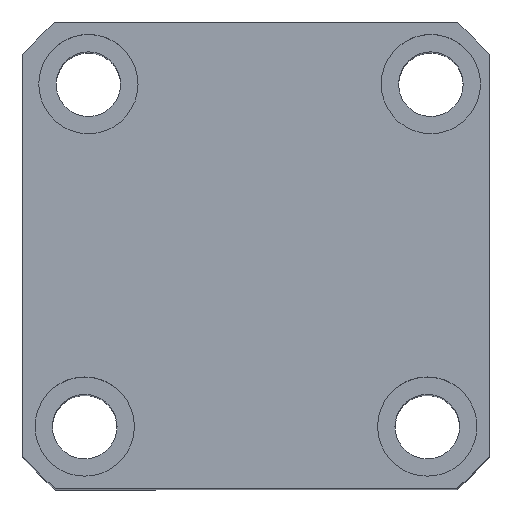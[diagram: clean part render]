
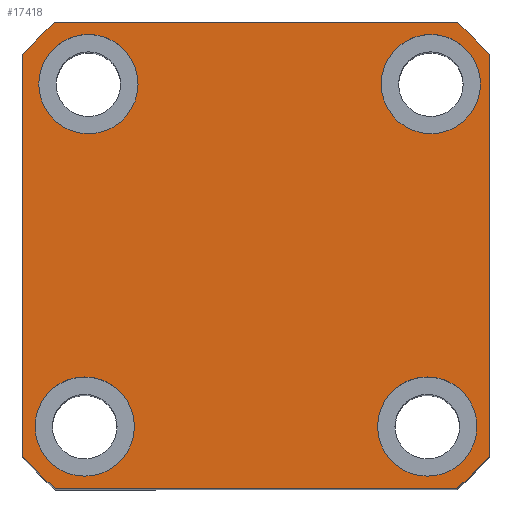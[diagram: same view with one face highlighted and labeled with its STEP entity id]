
A CAD part, top view. The second image highlights one B-rep face of the part: STEP entity #17418.
In plain terms, the highlighted planar face has unit normal (0, 0, 1) as drawn and (0, 0, -1) by its records, which use the part's own axes.
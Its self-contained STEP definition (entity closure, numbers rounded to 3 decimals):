
#1 = EDGE_CURVE ( 'NONE', #9653, #13650, #17089, .T. ) ;
#155 = CARTESIAN_POINT ( 'NONE',  ( 0., 0., 0. ) ) ;
#215 = CARTESIAN_POINT ( 'NONE',  ( -40.435, 47., 0. ) ) ;
#249 = FACE_BOUND ( 'NONE', #15668, .T. ) ;
#444 = ORIENTED_EDGE ( 'NONE', *, *, #2285, .F. ) ;
#628 = CARTESIAN_POINT ( 'NONE',  ( -34.5, 34.5, 0. ) ) ;
#721 = ORIENTED_EDGE ( 'NONE', *, *, #16177, .F. ) ;
#793 = VECTOR ( 'NONE', #14186, 1000. ) ;
#1041 = DIRECTION ( 'NONE',  ( 0., 0., -1. ) ) ;
#1352 = VERTEX_POINT ( 'NONE', #8930 ) ;
#1569 = DIRECTION ( 'NONE',  ( 1., 0., 0. ) ) ;
#1611 = CARTESIAN_POINT ( 'NONE',  ( 47., 47., 0. ) ) ;
#1774 = VECTOR ( 'NONE', #14123, 1000. ) ;
#2038 = EDGE_CURVE ( 'NONE', #2981, #11750, #13418, .T. ) ;
#2107 = ORIENTED_EDGE ( 'NONE', *, *, #6838, .F. ) ;
#2285 = EDGE_CURVE ( 'NONE', #2801, #1352, #17066, .T. ) ;
#2631 = AXIS2_PLACEMENT_3D ( 'NONE', #4050, #13683, #5448 ) ;
#2646 = ORIENTED_EDGE ( 'NONE', *, *, #7069, .F. ) ;
#2801 = VERTEX_POINT ( 'NONE', #8529 ) ;
#2949 = CIRCLE ( 'NONE', #4732, 10. ) ;
#2981 = VERTEX_POINT ( 'NONE', #11903 ) ;
#2992 = CARTESIAN_POINT ( 'NONE',  ( 34.5, 34.5, 0. ) ) ;
#3406 = ORIENTED_EDGE ( 'NONE', *, *, #12976, .F. ) ;
#3515 = FACE_BOUND ( 'NONE', #6139, .T. ) ;
#3735 = VERTEX_POINT ( 'NONE', #13807 ) ;
#3738 = EDGE_LOOP ( 'NONE', ( #2646, #721 ) ) ;
#3967 = VERTEX_POINT ( 'NONE', #14597 ) ;
#4050 = CARTESIAN_POINT ( 'NONE',  ( 35.23, -34.5, 0. ) ) ;
#4356 = FACE_BOUND ( 'NONE', #3738, .T. ) ;
#4363 = DIRECTION ( 'NONE',  ( -1., 0., 0. ) ) ;
#4440 = LINE ( 'NONE', #12728, #793 ) ;
#4616 = AXIS2_PLACEMENT_3D ( 'NONE', #16886, #14395, #6172 ) ;
#4732 = AXIS2_PLACEMENT_3D ( 'NONE', #16268, #8058, #17627 ) ;
#4770 = PLANE ( 'NONE',  #4616 ) ;
#4897 = VERTEX_POINT ( 'NONE', #13001 ) ;
#4982 = VERTEX_POINT ( 'NONE', #15923 ) ;
#5012 = CIRCLE ( 'NONE', #16935, 62. ) ;
#5025 = VERTEX_POINT ( 'NONE', #11849 ) ;
#5144 = EDGE_LOOP ( 'NONE', ( #16834, #14062 ) ) ;
#5423 = LINE ( 'NONE', #12731, #1774 ) ;
#5448 = DIRECTION ( 'NONE',  ( -1., 0., 0. ) ) ;
#5633 = CARTESIAN_POINT ( 'NONE',  ( 0., 0., 0. ) ) ;
#5697 = CARTESIAN_POINT ( 'NONE',  ( 47., -40.435, 0. ) ) ;
#5960 = CARTESIAN_POINT ( 'NONE',  ( 0., 0., 0. ) ) ;
#5983 = CARTESIAN_POINT ( 'NONE',  ( 25.23, -34.5, 0. ) ) ;
#6139 = EDGE_LOOP ( 'NONE', ( #444, #11075 ) ) ;
#6172 = DIRECTION ( 'NONE',  ( 1., 0., 0. ) ) ;
#6209 = LINE ( 'NONE', #1611, #15865 ) ;
#6253 = CARTESIAN_POINT ( 'NONE',  ( 0., 0., 0. ) ) ;
#6553 = ORIENTED_EDGE ( 'NONE', *, *, #10994, .F. ) ;
#6703 = AXIS2_PLACEMENT_3D ( 'NONE', #16947, #17007, #17073 ) ;
#6746 = FACE_OUTER_BOUND ( 'NONE', #7446, .T. ) ;
#6838 = EDGE_CURVE ( 'NONE', #13650, #9653, #2949, .T. ) ;
#6874 = CARTESIAN_POINT ( 'NONE',  ( -47., 47., 0. ) ) ;
#6988 = EDGE_CURVE ( 'NONE', #5025, #11943, #9418, .T. ) ;
#7015 = VERTEX_POINT ( 'NONE', #5697 ) ;
#7030 = DIRECTION ( 'NONE',  ( 0., 0., -1. ) ) ;
#7033 = DIRECTION ( 'NONE',  ( 1., 0., 0. ) ) ;
#7051 = ORIENTED_EDGE ( 'NONE', *, *, #17098, .F. ) ;
#7069 = EDGE_CURVE ( 'NONE', #4897, #3735, #9009, .T. ) ;
#7084 = EDGE_CURVE ( 'NONE', #7015, #11057, #6209, .T. ) ;
#7262 = EDGE_CURVE ( 'NONE', #3967, #11725, #4440, .T. ) ;
#7319 = DIRECTION ( 'NONE',  ( 0., 0., -1. ) ) ;
#7343 = DIRECTION ( 'NONE',  ( 1., 0., 0. ) ) ;
#7446 = EDGE_LOOP ( 'NONE', ( #7843, #13219, #6553, #17272, #7051, #17548, #3406, #10712 ) ) ;
#7620 = CIRCLE ( 'NONE', #8791, 62. ) ;
#7623 = DIRECTION ( 'NONE',  ( 1., 0., 0. ) ) ;
#7731 = CARTESIAN_POINT ( 'NONE',  ( 40.435, -47., 0. ) ) ;
#7843 = ORIENTED_EDGE ( 'NONE', *, *, #10438, .F. ) ;
#8058 = DIRECTION ( 'NONE',  ( 0., 0., -1. ) ) ;
#8473 = CIRCLE ( 'NONE', #13266, 62. ) ;
#8529 = CARTESIAN_POINT ( 'NONE',  ( -43.77, -34.5, 0. ) ) ;
#8560 = CIRCLE ( 'NONE', #2631, 10. ) ;
#8791 = AXIS2_PLACEMENT_3D ( 'NONE', #5633, #15254, #7033 ) ;
#8930 = CARTESIAN_POINT ( 'NONE',  ( -23.77, -34.5, 0. ) ) ;
#9009 = CIRCLE ( 'NONE', #12093, 10. ) ;
#9295 = CIRCLE ( 'NONE', #12098, 10. ) ;
#9312 = CARTESIAN_POINT ( 'NONE',  ( -33.77, -34.5, 0. ) ) ;
#9337 = AXIS2_PLACEMENT_3D ( 'NONE', #15251, #7030, #16620 ) ;
#9418 = CIRCLE ( 'NONE', #9337, 10. ) ;
#9562 = CARTESIAN_POINT ( 'NONE',  ( -24.5, 34.5, 0. ) ) ;
#9588 = DIRECTION ( 'NONE',  ( -1., 0., 0. ) ) ;
#9653 = VERTEX_POINT ( 'NONE', #14594 ) ;
#9822 = DIRECTION ( 'NONE',  ( 0., 0., 1. ) ) ;
#9902 = EDGE_CURVE ( 'NONE', #11943, #5025, #8560, .T. ) ;
#10360 = CIRCLE ( 'NONE', #13584, 10. ) ;
#10414 = FACE_BOUND ( 'NONE', #5144, .T. ) ;
#10438 = EDGE_CURVE ( 'NONE', #11057, #2981, #16916, .T. ) ;
#10690 = DIRECTION ( 'NONE',  ( -1., 0., 0. ) ) ;
#10712 = ORIENTED_EDGE ( 'NONE', *, *, #2038, .F. ) ;
#10972 = DIRECTION ( 'NONE',  ( 0., 0., -1. ) ) ;
#10994 = EDGE_CURVE ( 'NONE', #16539, #7015, #7620, .T. ) ;
#11057 = VERTEX_POINT ( 'NONE', #11241 ) ;
#11075 = ORIENTED_EDGE ( 'NONE', *, *, #15445, .F. ) ;
#11238 = DIRECTION ( 'NONE',  ( 0., 1., 0. ) ) ;
#11241 = CARTESIAN_POINT ( 'NONE',  ( 47., 40.435, 0. ) ) ;
#11725 = VERTEX_POINT ( 'NONE', #15462 ) ;
#11750 = VERTEX_POINT ( 'NONE', #215 ) ;
#11849 = CARTESIAN_POINT ( 'NONE',  ( 45.23, -34.5, 0. ) ) ;
#11903 = CARTESIAN_POINT ( 'NONE',  ( 40.435, 47., 0. ) ) ;
#11943 = VERTEX_POINT ( 'NONE', #5983 ) ;
#12093 = AXIS2_PLACEMENT_3D ( 'NONE', #2992, #12616, #4363 ) ;
#12098 = AXIS2_PLACEMENT_3D ( 'NONE', #9312, #1041, #10690 ) ;
#12347 = AXIS2_PLACEMENT_3D ( 'NONE', #628, #10972, #13213 ) ;
#12616 = DIRECTION ( 'NONE',  ( 0., 0., -1. ) ) ;
#12728 = CARTESIAN_POINT ( 'NONE',  ( -47., 47., 0. ) ) ;
#12731 = CARTESIAN_POINT ( 'NONE',  ( -47., -47., 0. ) ) ;
#12867 = EDGE_CURVE ( 'NONE', #4982, #16539, #5423, .T. ) ;
#12976 = EDGE_CURVE ( 'NONE', #11750, #3967, #5012, .T. ) ;
#13001 = CARTESIAN_POINT ( 'NONE',  ( 24.5, 34.5, 0. ) ) ;
#13004 = VECTOR ( 'NONE', #9588, 1000. ) ;
#13213 = DIRECTION ( 'NONE',  ( -1., 0., 0. ) ) ;
#13219 = ORIENTED_EDGE ( 'NONE', *, *, #7084, .F. ) ;
#13266 = AXIS2_PLACEMENT_3D ( 'NONE', #155, #9822, #1569 ) ;
#13418 = LINE ( 'NONE', #6874, #13004 ) ;
#13584 = AXIS2_PLACEMENT_3D ( 'NONE', #15539, #7319, #16904 ) ;
#13650 = VERTEX_POINT ( 'NONE', #9562 ) ;
#13683 = DIRECTION ( 'NONE',  ( 0., 0., -1. ) ) ;
#13807 = CARTESIAN_POINT ( 'NONE',  ( 44.5, 34.5, 0. ) ) ;
#14062 = ORIENTED_EDGE ( 'NONE', *, *, #6988, .F. ) ;
#14123 = DIRECTION ( 'NONE',  ( 1., 0., 0. ) ) ;
#14186 = DIRECTION ( 'NONE',  ( 0., -1., 0. ) ) ;
#14395 = DIRECTION ( 'NONE',  ( 0., 0., 1. ) ) ;
#14594 = CARTESIAN_POINT ( 'NONE',  ( -44.5, 34.5, 0. ) ) ;
#14597 = CARTESIAN_POINT ( 'NONE',  ( -47., 40.435, 0. ) ) ;
#15143 = ORIENTED_EDGE ( 'NONE', *, *, #1, .F. ) ;
#15251 = CARTESIAN_POINT ( 'NONE',  ( 35.23, -34.5, 0. ) ) ;
#15254 = DIRECTION ( 'NONE',  ( 0., 0., 1. ) ) ;
#15445 = EDGE_CURVE ( 'NONE', #1352, #2801, #9295, .T. ) ;
#15462 = CARTESIAN_POINT ( 'NONE',  ( -47., -40.435, 0. ) ) ;
#15539 = CARTESIAN_POINT ( 'NONE',  ( 34.5, 34.5, 0. ) ) ;
#15554 = AXIS2_PLACEMENT_3D ( 'NONE', #6253, #15848, #7623 ) ;
#15566 = DIRECTION ( 'NONE',  ( 0., 0., 1. ) ) ;
#15668 = EDGE_LOOP ( 'NONE', ( #15143, #2107 ) ) ;
#15848 = DIRECTION ( 'NONE',  ( 0., 0., 1. ) ) ;
#15865 = VECTOR ( 'NONE', #11238, 1000. ) ;
#15923 = CARTESIAN_POINT ( 'NONE',  ( -40.435, -47., 0. ) ) ;
#16177 = EDGE_CURVE ( 'NONE', #3735, #4897, #10360, .T. ) ;
#16268 = CARTESIAN_POINT ( 'NONE',  ( -34.5, 34.5, 0. ) ) ;
#16539 = VERTEX_POINT ( 'NONE', #7731 ) ;
#16620 = DIRECTION ( 'NONE',  ( -1., 0., 0. ) ) ;
#16834 = ORIENTED_EDGE ( 'NONE', *, *, #9902, .F. ) ;
#16886 = CARTESIAN_POINT ( 'NONE',  ( 0., 0., 0. ) ) ;
#16904 = DIRECTION ( 'NONE',  ( -1., 0., 0. ) ) ;
#16916 = CIRCLE ( 'NONE', #15554, 62. ) ;
#16935 = AXIS2_PLACEMENT_3D ( 'NONE', #5960, #15566, #7343 ) ;
#16947 = CARTESIAN_POINT ( 'NONE',  ( -33.77, -34.5, 0. ) ) ;
#17007 = DIRECTION ( 'NONE',  ( 0., 0., -1. ) ) ;
#17066 = CIRCLE ( 'NONE', #6703, 10. ) ;
#17073 = DIRECTION ( 'NONE',  ( -1., 0., 0. ) ) ;
#17089 = CIRCLE ( 'NONE', #12347, 10. ) ;
#17098 = EDGE_CURVE ( 'NONE', #11725, #4982, #8473, .T. ) ;
#17272 = ORIENTED_EDGE ( 'NONE', *, *, #12867, .F. ) ;
#17418 = ADVANCED_FACE ( 'NONE', ( #10414, #3515, #249, #4356, #6746 ), #4770, .F. ) ;
#17548 = ORIENTED_EDGE ( 'NONE', *, *, #7262, .F. ) ;
#17627 = DIRECTION ( 'NONE',  ( -1., 0., 0. ) ) ;
